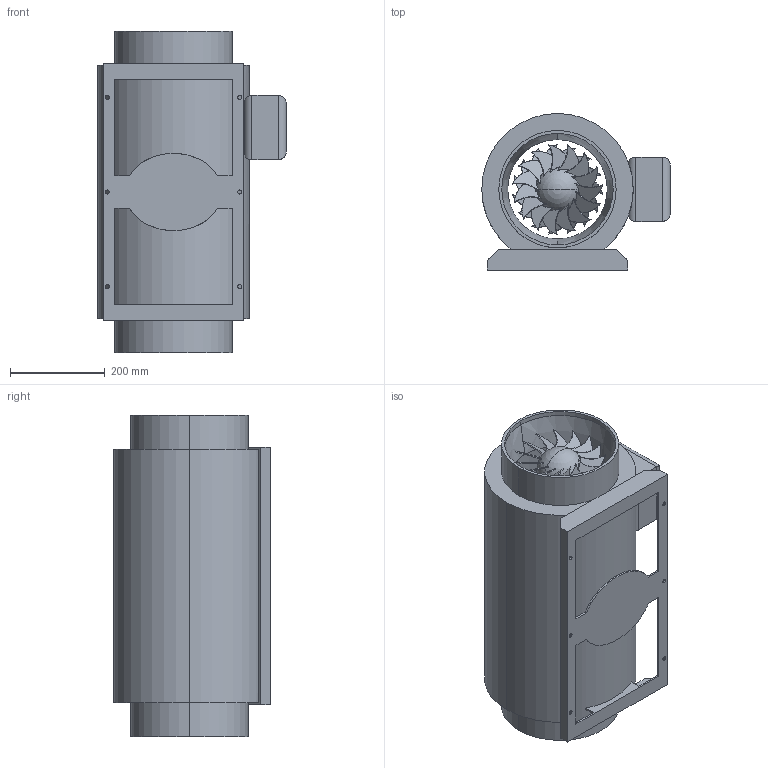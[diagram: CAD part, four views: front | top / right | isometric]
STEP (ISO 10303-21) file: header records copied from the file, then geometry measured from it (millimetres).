
FILE_DESCRIPTION(('STEP AP214'),'1');
FILE_NAME('fan_5211995600.stp','2017-10-10T11:56:51',('TraceParts'),('TraceParts S.A.'),'Spatial InterOp 3D',' ',' ');
FILE_SCHEMA(('automotive_design'));
Length unit declared in the file: millimetre
Products named in the file (1): fan_5211995600
Bounding box: 398.2 x 331 x 680 mm (x, y, z)
Volume: 7425033.3 mm3; surface area: 1910541 mm2
Topology: 1 solids, 1 shells, 225 faces, 641 edges, 416 vertices
Faces by surface type: cylinder 104, plane 103, sphere 12, cone 4, bspline 2
Entity records: 11347 total; most frequent: CARTESIAN_POINT 3481, DIRECTION 1401, ORIENTED_EDGE 1274, EDGE_CURVE 637, AXIS2_PLACEMENT_3D 612, VERTEX_POINT 416, CIRCLE 310, EDGE_LOOP 253
